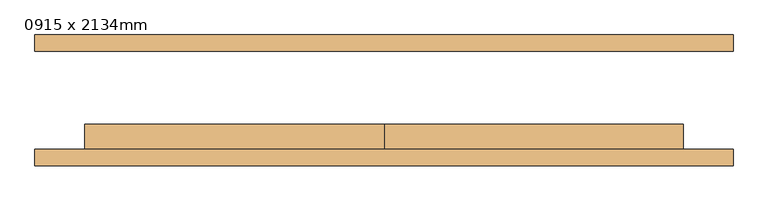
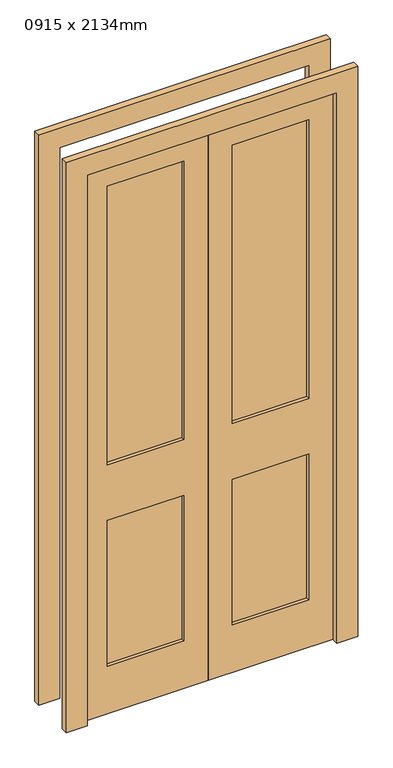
"""IFC4 building model written with IfcOpenShell, lengths in millimetres: door geometry, 반접이-2 패널 : 0915 x 2134mm."""

from ifc_helpers import new_model, si_unit, frame, origin, place, context, project, spatial, polyline, outline, extrude, source, transform, mapped, element, save


def door_0915_x_2134mm_b5dea87d(model_context):
    return source(origin(), model_context, "Body", "SweptSolid", [
        extrude(outline(polyline([(2134.0, 0.0), (2134.0, -457.5), (0.0, -457.5), (0.0, 0.0), (2134.0, 0.0)]), holes=[polyline([(2045.1, -88.9), (965.11872, -88.9), (965.11872, -368.6), (2045.1, -368.6), (2045.1, -88.9)]), polyline([(749.3, -88.9), (184.15, -88.9), (184.15, -368.6), (749.3, -368.6), (749.3, -88.9)])]), frame((0.0, -75.0, 0.0), z_axis=(0.0, 1.0, 0.0), x_axis=(0.0, 0.0, 1.0)), (0.0, 0.0, 1.0), 38.1),
        extrude(outline(polyline([(-88.9, -49.6), (-88.9, -62.3), (-368.6, -62.3), (-368.6, -49.6), (-88.9, -49.6)])), frame((0.0, 0.0, 965.11872), z_axis=(0.0, 0.0, 1.0), x_axis=(1.0, 0.0, 0.0)), (0.0, 0.0, 1.0), 1079.98128),
        extrude(outline(polyline([(-88.9, -49.6), (-88.9, -62.3), (-368.6, -62.3), (-368.6, -49.6), (-88.9, -49.6)])), frame((0.0, 0.0, 184.15), z_axis=(0.0, 0.0, 1.0), x_axis=(1.0, 0.0, 0.0)), (0.0, 0.0, 1.0), 565.15),
        extrude(outline(polyline([(368.6, -49.6), (368.6, -62.3), (88.9, -62.3), (88.9, -49.6), (368.6, -49.6)])), frame((0.0, 0.0, 965.11872), z_axis=(0.0, 0.0, 1.0), x_axis=(1.0, 0.0, 0.0)), (0.0, 0.0, 1.0), 1079.98128),
        extrude(outline(polyline([(368.6, -49.6), (368.6, -62.3), (88.9, -62.3), (88.9, -49.6), (368.6, -49.6)])), frame((0.0, 0.0, 184.15), z_axis=(0.0, 0.0, 1.0), x_axis=(1.0, 0.0, 0.0)), (0.0, 0.0, 1.0), 565.15),
        extrude(outline(polyline([(2210.0, -533.5), (0.0, -533.5), (0.0, -457.5), (2134.0, -457.5), (2134.0, 457.5), (0.0, 457.5), (0.0, 533.5), (2210.0, 533.5), (2210.0, -533.5)])), frame((0.0, -100.0, 0.0), z_axis=(0.0, 1.0, 0.0), x_axis=(0.0, 0.0, 1.0)), (0.0, 0.0, 1.0), 25.0),
        extrude(outline(polyline([(2210.0, 533.5), (2210.0, -533.5), (0.0, -533.5), (0.0, -457.5), (2134.0, -457.5), (2134.0, 457.5), (0.0, 457.5), (0.0, 533.5), (2210.0, 533.5)])), frame((0.0, 75.0, 0.0), z_axis=(0.0, 1.0, 0.0), x_axis=(0.0, 0.0, 1.0)), (0.0, 0.0, 1.0), 25.0),
        extrude(outline(polyline([(2134.0, 457.5), (2134.0, 0.0), (0.0, 0.0), (0.0, 457.5), (2134.0, 457.5)]), holes=[polyline([(2045.1, 88.9), (2045.1, 368.6), (965.11872, 368.6), (965.11872, 88.9), (2045.1, 88.9)]), polyline([(749.3, 88.9), (749.3, 368.6), (184.15, 368.6), (184.15, 88.9), (749.3, 88.9)])]), frame((0.0, -75.0, 0.0), z_axis=(0.0, 1.0, 0.0), x_axis=(0.0, 0.0, 1.0)), (0.0, 0.0, 1.0), 38.1),
    ])


if __name__ == "__main__":
    model = new_model("IFC4")
    model_context = context("Model", 3, world=origin())
    ifc_project = project(units=[si_unit("LENGTHUNIT", "METRE", prefix="MILLI")], contexts=[model_context])
    site = spatial("IfcSite", under=ifc_project)
    building = spatial("IfcBuilding", under=site)
    placement = place(None, origin())
    door_0915_x_2134mm_shape = door_0915_x_2134mm_b5dea87d(model_context)
    element("IfcDoor", 1, ObjectType="반접이-2 패널 : 0915 x 2134mm", at=placement, inside=building, context=model_context, shape_type="MappedRepresentation", body=[
        mapped(door_0915_x_2134mm_shape, transform((0.0, 0.0, 0.0), x_axis=(1.0, 0.0, 0.0), y_axis=(0.0, 1.0, 0.0), z_axis=(0.0, 0.0, 1.0))),
    ])
    save(model, "model.ifc")
